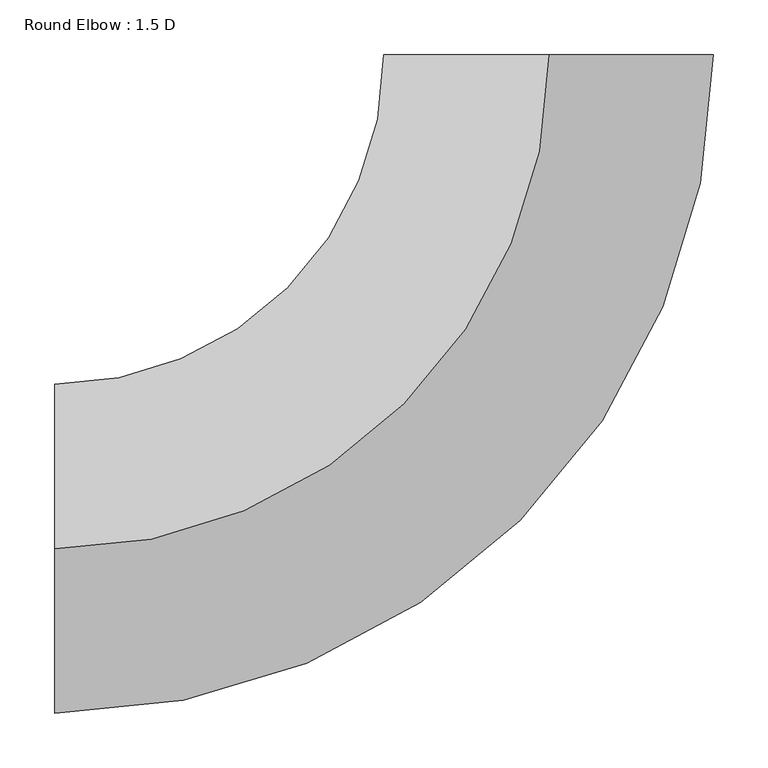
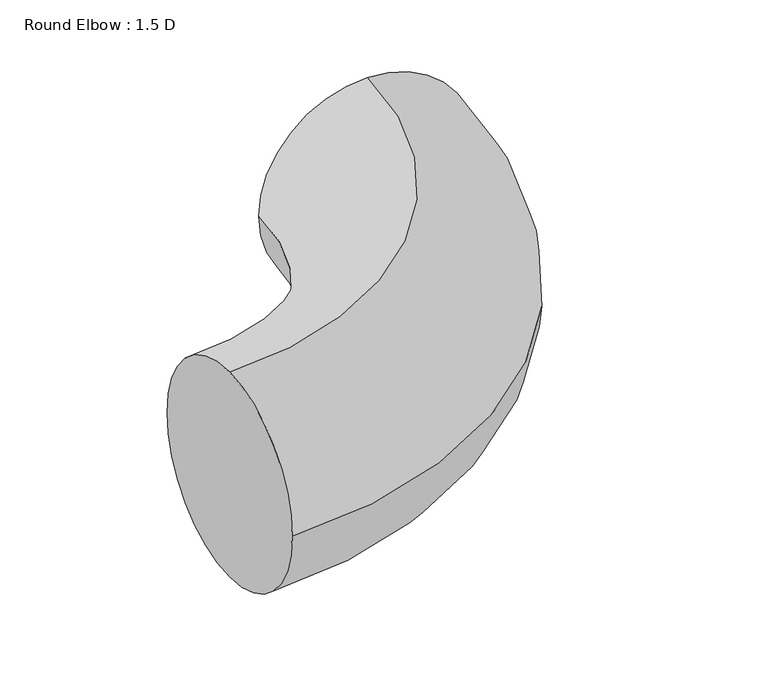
"""IFC4 building model written with IfcOpenShell, lengths in millimetres: duct fitting geometry, Round Elbow : 1.5 D."""

from ifc_helpers import new_model, si_unit, point, frame, origin, place, context, project, spatial, circle_curve, ellipse_curve, trimmed, source, transform, mapped, element, save
from ifc_brep_helpers import plane_surface, revolved_surface, advanced_brep


def round_elbow_1_5_d_ee9da881(model_context):
    return source(origin(), model_context, "Body", "AdvancedBrep", [
        advanced_brep(
        [(-450.0, 0.0, 150.0), (-450.0, 150.0, 0.0), (-450.0, 0.0, -150.0), (-450.0, -150.0, 0.0), (0.0, 450.0, 150.0), (150.0, 450.0, 0.0), (0.0, 450.0, -150.0), (-150.0, 450.0, 0.0)],
        [
            (0, 1, circle_curve(frame((-450.0, 0.0, 0.0), z_axis=(-1.0, 0.0, 0.0), x_axis=(0.0, 1.0, 0.0)), 150.0)),
            (1, 2, circle_curve(frame((-450.0, 0.0, 0.0), z_axis=(-1.0, 0.0, 0.0), x_axis=(0.0, 1.0, 0.0)), 150.0)),
            (2, 3, circle_curve(frame((-450.0, 0.0, 0.0), z_axis=(-1.0, 0.0, 0.0), x_axis=(0.0, 1.0, 0.0)), 150.0)),
            (3, 0, circle_curve(frame((-450.0, 0.0, 0.0), z_axis=(-1.0, 0.0, 0.0), x_axis=(0.0, 1.0, 0.0)), 150.0)),
            (4, 5, circle_curve(frame((0.0, 450.0, 0.0), z_axis=(0.0, 1.0, 0.0), x_axis=(-1.0, 0.0, 0.0)), 150.0)),
            (5, 6, circle_curve(frame((0.0, 450.0, 0.0), z_axis=(0.0, 1.0, 0.0), x_axis=(-1.0, 0.0, 0.0)), 150.0)),
            (6, 7, circle_curve(frame((0.0, 450.0, 0.0), z_axis=(0.0, 1.0, 0.0), x_axis=(-1.0, 0.0, 0.0)), 150.0)),
            (7, 4, circle_curve(frame((0.0, 450.0, 0.0), z_axis=(0.0, 1.0, 0.0), x_axis=(-1.0, 0.0, 0.0)), 150.0)),
            (7, 1, circle_curve(frame((-450.0, 450.0, 0.0), z_axis=(0.0, 0.0, -1.0), x_axis=(0.0, -1.0, 0.0)), 300.0)),
            (0, 4, circle_curve(frame((-450.0, 450.0, 150.0), z_axis=(0.0, 0.0, 1.0), x_axis=(0.0, -1.0, 0.0)), 450.0)),
            (6, 2, circle_curve(frame((-450.0, 450.0, -150.0), z_axis=(0.0, 0.0, -1.0), x_axis=(0.0, -1.0, 0.0)), 450.0)),
            (5, 3, circle_curve(frame((-450.0, 450.0, 0.0), z_axis=(0.0, 0.0, -1.0), x_axis=(0.0, -1.0, 0.0)), 600.0)),
        ],
        [
            plane_surface(frame((-450.0, 0.0, 0.0), z_axis=(-1.0, 0.0, 0.0), x_axis=(0.0, 0.0, 1.0))),
            plane_surface(frame((0.0, 450.0, 0.0), z_axis=(0.0, 1.0, 0.0), x_axis=(0.0, 0.0, 1.0))),
            revolved_surface(trimmed(ellipse_curve(frame((-450.0, 0.0, 0.0), z_axis=(-1.0, 0.0, 0.0), x_axis=(0.0, 1.0, 0.0)), 150.0, 150.0), [point((-450.0, 0.0, 150.0))], [point((-450.0, 150.0, 0.0))], True, "CARTESIAN"), (-450.0, 450.0, 0.0), (0.0, 0.0, 1.0)),
            revolved_surface(trimmed(ellipse_curve(frame((-450.0, 0.0, 0.0), z_axis=(-1.0, 0.0, 0.0), x_axis=(0.0, 1.0, 0.0)), 150.0, 150.0), [point((-450.0, 150.0, 0.0))], [point((-450.0, 0.0, -150.0))], True, "CARTESIAN"), (-450.0, 450.0, 0.0), (0.0, 0.0, 1.0)),
            revolved_surface(trimmed(ellipse_curve(frame((-450.0, 0.0, 0.0), z_axis=(-1.0, 0.0, 0.0), x_axis=(0.0, 1.0, 0.0)), 150.0, 150.0), [point((-450.0, 0.0, -150.0))], [point((-450.0, -150.0, 0.0))], True, "CARTESIAN"), (-450.0, 450.0, 0.0), (0.0, 0.0, 1.0)),
            revolved_surface(trimmed(ellipse_curve(frame((-450.0, 0.0, 0.0), z_axis=(-1.0, 0.0, 0.0), x_axis=(0.0, 1.0, 0.0)), 150.0, 150.0), [point((-450.0, -150.0, 0.0))], [point((-450.0, 0.0, 150.0))], True, "CARTESIAN"), (-450.0, 450.0, 0.0), (0.0, 0.0, 1.0)),
        ],
        [
            (0, [[1, 2, 3, 4]]),
            (1, [[5, 6, 7, 8]]),
            (2, [[9, -1, 10, -8]]),
            (3, [[11, -2, -9, -7]]),
            (4, [[12, -3, -11, -6]]),
            (5, [[-10, -4, -12, -5]]),
        ],
    ),
    ])


if __name__ == "__main__":
    model = new_model("IFC4")
    model_context = context("Model", 3, world=origin())
    ifc_project = project(units=[si_unit("LENGTHUNIT", "METRE", prefix="MILLI")], contexts=[model_context])
    site = spatial("IfcSite", under=ifc_project)
    building = spatial("IfcBuilding", under=site)
    placement = place(None, origin())
    round_elbow_1_5_d_shape = round_elbow_1_5_d_ee9da881(model_context)
    element("IfcDuctFitting", 1, ObjectType="Round Elbow : 1.5 D", at=placement, inside=building, context=model_context, shape_type="MappedRepresentation", body=[
        mapped(round_elbow_1_5_d_shape, transform((0.0, 0.0, 0.0), x_axis=(1.0, 0.0, 0.0), y_axis=(0.0, 1.0, 0.0), z_axis=(0.0, 0.0, 1.0))),
    ])
    save(model, "model.ifc")
